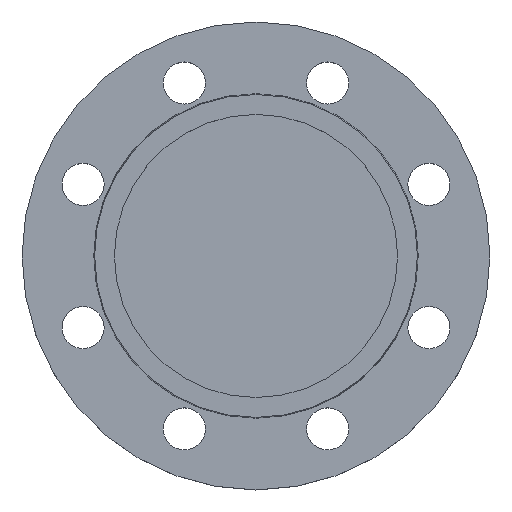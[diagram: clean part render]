
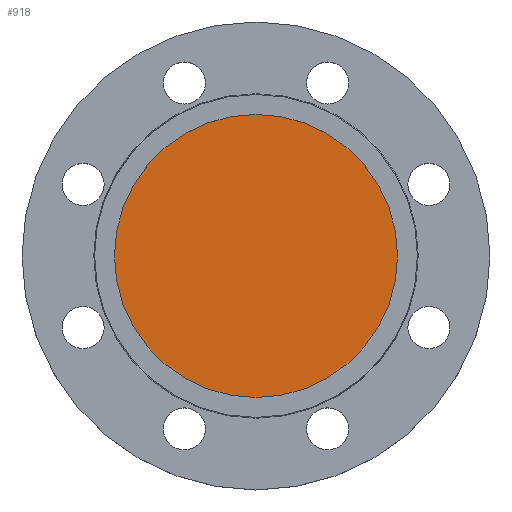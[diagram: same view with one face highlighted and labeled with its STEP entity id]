
A CAD part, top view. The second image highlights one B-rep face of the part: STEP entity #918.
In plain terms, the highlighted planar face has unit normal (0, 0, 1).
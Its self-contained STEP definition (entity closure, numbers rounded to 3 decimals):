
#5 = CIRCLE ( 'NONE', #11, 60.5 ) ;
#11 = AXIS2_PLACEMENT_3D ( 'NONE', #718, #720, #721 ) ;
#53 = EDGE_CURVE ( 'NONE', #731, #743, #5, .T. ) ;
#121 = DIRECTION ( 'NONE',  ( 1., 0., 0. ) ) ;
#122 = DIRECTION ( 'NONE',  ( 0., 0., 1. ) ) ;
#123 = CARTESIAN_POINT ( 'NONE',  ( 60.5, 0., -4. ) ) ;
#181 = PLANE ( 'NONE',  #526 ) ;
#182 = FACE_OUTER_BOUND ( 'NONE', #985, .T. ) ;
#274 = CARTESIAN_POINT ( 'NONE',  ( 60.5, 0., -4. ) ) ;
#283 = CARTESIAN_POINT ( 'NONE',  ( -60.5, 0., -4. ) ) ;
#356 = DIRECTION ( 'NONE',  ( -1., 0., 0. ) ) ;
#359 = DIRECTION ( 'NONE',  ( 0., 0., -1. ) ) ;
#360 = CARTESIAN_POINT ( 'NONE',  ( 0., 0., -4. ) ) ;
#440 = CIRCLE ( 'NONE', #500, 60.5 ) ;
#500 = AXIS2_PLACEMENT_3D ( 'NONE', #360, #359, #356 ) ;
#526 = AXIS2_PLACEMENT_3D ( 'NONE', #123, #122, #121 ) ;
#562 = EDGE_CURVE ( 'NONE', #743, #731, #440, .T. ) ;
#718 = CARTESIAN_POINT ( 'NONE',  ( 0., 0., -4. ) ) ;
#720 = DIRECTION ( 'NONE',  ( 0., 0., -1. ) ) ;
#721 = DIRECTION ( 'NONE',  ( -1., 0., 0. ) ) ;
#731 = VERTEX_POINT ( 'NONE', #283 ) ;
#743 = VERTEX_POINT ( 'NONE', #274 ) ;
#918 = ADVANCED_FACE ( 'NONE', ( #182 ), #181, .T. ) ;
#943 = ORIENTED_EDGE ( 'NONE', *, *, #53, .F. ) ;
#945 = ORIENTED_EDGE ( 'NONE', *, *, #562, .F. ) ;
#985 = EDGE_LOOP ( 'NONE', ( #943, #945 ) ) ;
